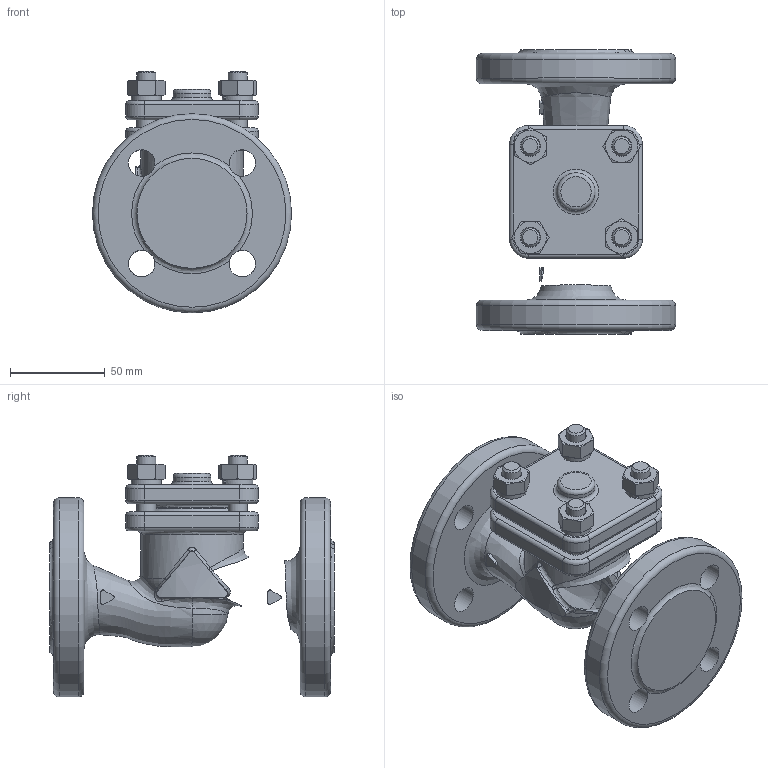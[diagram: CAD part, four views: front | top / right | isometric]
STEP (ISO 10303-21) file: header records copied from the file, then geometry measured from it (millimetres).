
FILE_DESCRIPTION(/* description */ (''),/* implementation_level */ '2;1');
FILE_NAME(/* name */ 'ZV226_DN20.stp',/* time_stamp */ '2012-11-09T09:10:42+01:00',/* author */ (''),/* organization */ ('LDM'),/* preprocessor_version */ 'ST-DEVELOPER v11',/* originating_system */ 'SIEMENS PLM Software NX 7.0',/* authorisation */ '');
FILE_SCHEMA (('CONFIG_CONTROL_DESIGN'));
Length unit declared in the file: millimetre
Products named in the file (1): adam1FBC7ink
Bounding box: 105 x 150 x 127.5 mm (x, y, z)
Volume: 561663.5 mm3; surface area: 85480.6 mm2
Topology: 1 solids, 1 shells, 280 faces, 720 edges, 438 vertices
Faces by surface type: plane 84, cylinder 67, cone 64, torus 43, bspline 21, sphere 1
Full cylindrical faces by diameter (mm): 8.917 x4, 10 x8, 12 x4, 14 x8, 20 x1, 48 x1, 54 x1, 105 x2
Entity records: 11509 total; most frequent: CARTESIAN_POINT 5411, DIRECTION 1230, ORIENTED_EDGE 1202, EDGE_CURVE 601, AXIS2_PLACEMENT_3D 552, VERTEX_POINT 387, EDGE_LOOP 384, ADVANCED_FACE 280
